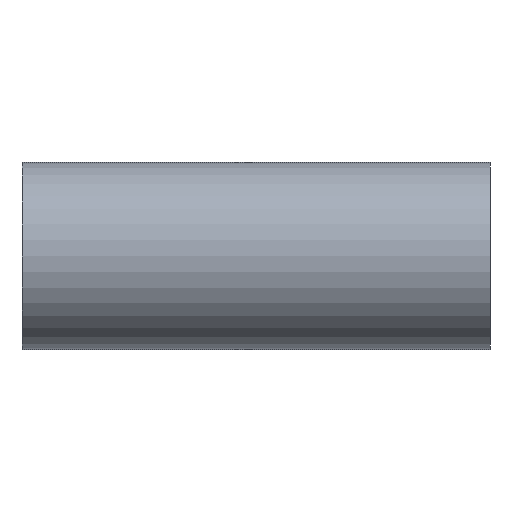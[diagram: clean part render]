
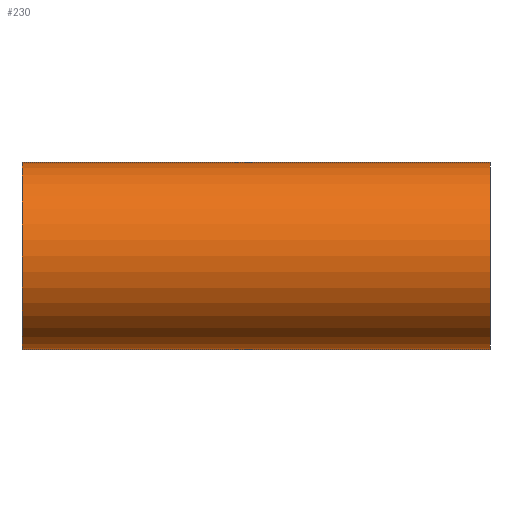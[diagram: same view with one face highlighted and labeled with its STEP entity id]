
A CAD part, front view. The second image highlights one B-rep face of the part: STEP entity #230.
In plain terms, the highlighted cylindrical face has radius 31.75 mm (diameter 63.5 mm), a partial arc.
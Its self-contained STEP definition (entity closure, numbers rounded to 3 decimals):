
#12 = VERTEX_POINT ( 'NONE', #427 ) ;
#24 = ORIENTED_EDGE ( 'NONE', *, *, #185, .F. ) ;
#31 = DIRECTION ( 'NONE',  ( -1., 0., 0. ) ) ;
#32 = DIRECTION ( 'NONE',  ( 1., 0., 0. ) ) ;
#62 = VERTEX_POINT ( 'NONE', #514 ) ;
#63 = ORIENTED_EDGE ( 'NONE', *, *, #401, .T. ) ;
#129 = DIRECTION ( 'NONE',  ( 0., 0., -1. ) ) ;
#136 = CARTESIAN_POINT ( 'NONE',  ( 79.4, 0., 31.75 ) ) ;
#154 = DIRECTION ( 'NONE',  ( 0., 0., -1. ) ) ;
#185 = EDGE_CURVE ( 'NONE', #12, #533, #407, .T. ) ;
#192 = CARTESIAN_POINT ( 'NONE',  ( -79.4, 0., 0. ) ) ;
#218 = CIRCLE ( 'NONE', #448, 31.75 ) ;
#230 = ADVANCED_FACE ( 'NONE', ( #239 ), #415, .T. ) ;
#235 = DIRECTION ( 'NONE',  ( 1., 0., 0. ) ) ;
#239 = FACE_OUTER_BOUND ( 'NONE', #362, .T. ) ;
#244 = EDGE_CURVE ( 'NONE', #62, #533, #301, .T. ) ;
#246 = LINE ( 'NONE', #534, #476 ) ;
#263 = DIRECTION ( 'NONE',  ( 1., 0., 0. ) ) ;
#281 = DIRECTION ( 'NONE',  ( 0., 0., -1. ) ) ;
#282 = EDGE_CURVE ( 'NONE', #318, #62, #246, .T. ) ;
#284 = CARTESIAN_POINT ( 'NONE',  ( -79.4, 0., 31.75 ) ) ;
#301 = CIRCLE ( 'NONE', #345, 31.75 ) ;
#318 = VERTEX_POINT ( 'NONE', #382 ) ;
#321 = CARTESIAN_POINT ( 'NONE',  ( 79.4, 0., 0. ) ) ;
#323 = ORIENTED_EDGE ( 'NONE', *, *, #282, .T. ) ;
#324 = DIRECTION ( 'NONE',  ( 1., 0., 0. ) ) ;
#345 = AXIS2_PLACEMENT_3D ( 'NONE', #321, #31, #281 ) ;
#362 = EDGE_LOOP ( 'NONE', ( #24, #63, #323, #442 ) ) ;
#373 = AXIS2_PLACEMENT_3D ( 'NONE', #192, #32, #154 ) ;
#382 = CARTESIAN_POINT ( 'NONE',  ( -79.4, 0., -31.75 ) ) ;
#401 = EDGE_CURVE ( 'NONE', #12, #318, #218, .T. ) ;
#407 = LINE ( 'NONE', #284, #477 ) ;
#415 = CYLINDRICAL_SURFACE ( 'NONE', #373, 31.75 ) ;
#427 = CARTESIAN_POINT ( 'NONE',  ( -79.4, 0., 31.75 ) ) ;
#437 = CARTESIAN_POINT ( 'NONE',  ( -79.4, 0., 0. ) ) ;
#442 = ORIENTED_EDGE ( 'NONE', *, *, #244, .T. ) ;
#448 = AXIS2_PLACEMENT_3D ( 'NONE', #437, #263, #129 ) ;
#476 = VECTOR ( 'NONE', #235, 1000. ) ;
#477 = VECTOR ( 'NONE', #324, 1000. ) ;
#514 = CARTESIAN_POINT ( 'NONE',  ( 79.4, 0., -31.75 ) ) ;
#533 = VERTEX_POINT ( 'NONE', #136 ) ;
#534 = CARTESIAN_POINT ( 'NONE',  ( -79.4, 0., -31.75 ) ) ;
